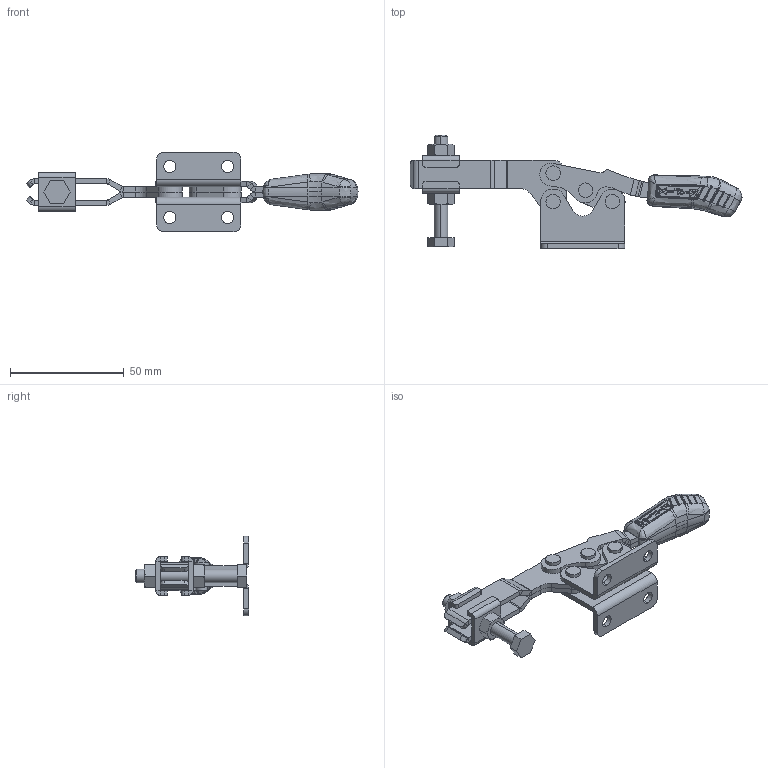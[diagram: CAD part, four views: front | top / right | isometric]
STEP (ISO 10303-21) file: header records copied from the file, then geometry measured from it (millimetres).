
FILE_DESCRIPTION (( 'STEP AP203' ), '1' );
FILE_NAME ('KF-512 D.STEP', '2014-08-18T12:34:44', ( 'Ricardo' ), ( '' ), 'SwSTEP 2.0', 'SolidWorks 2013', '' );
FILE_SCHEMA (( 'CONFIG_CONTROL_DESIGN' ));
Length unit declared in the file: millimetre
Products named in the file (13): 11.50001; 01.10132_Direita; 07.60004; 01.10132_Esquerda; KF-512 D; 03.13021_Direita; 03.13021_Esquerda; 08.10040; 06.50035; 14.10004; 02.12059_Direita; 12.50002; 02.12059_Esquerda
Assembly tree (18 placements, depth 2):
  KF-512 D
    02.12059_Direita
    02.12059_Esquerda
    01.10132_Direita
    01.10132_Esquerda
    03.13021_Direita
    03.13021_Esquerda
    08.10040  x2
    06.50035  x4
    14.10004  x2
    12.50002
    11.50001  x2
    07.60004
Bounding box: 145.88 x 49.85 x 34.9 mm (x, y, z)
Volume: 23503.1 mm3; surface area: 22940.3 mm2
Topology: 18 solids, 18 shells, 1089 faces, 2670 edges, 1606 vertices
Faces by surface type: cylinder 396, plane 328, bspline 264, sphere 52, cone 46, torus 3
Entity records: 35177 total; most frequent: CARTESIAN_POINT 12798, ORIENTED_EDGE 4848, DIRECTION 3751, EDGE_CURVE 2424, VERTEX_POINT 1467, AXIS2_PLACEMENT_3D 1453, EDGE_LOOP 1043, ADVANCED_FACE 992
